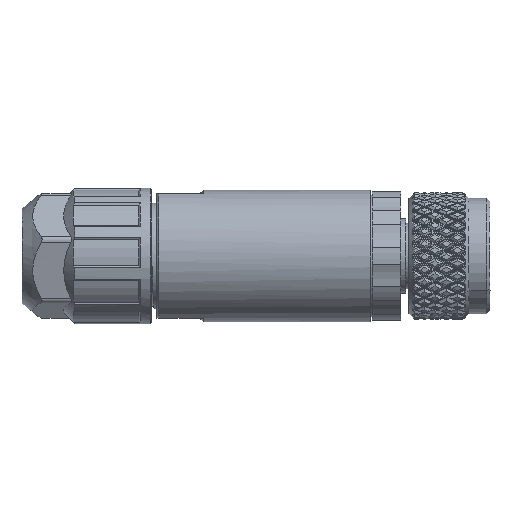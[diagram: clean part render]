
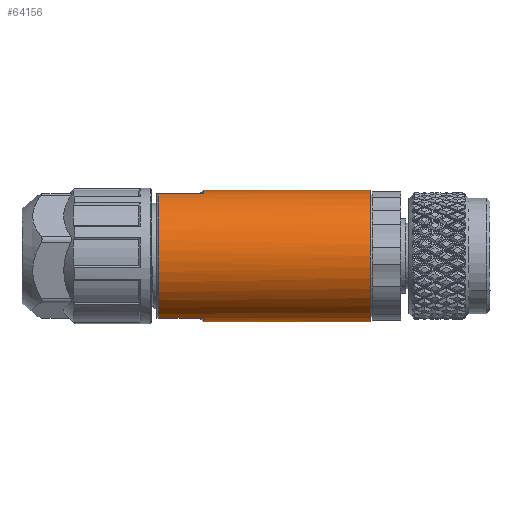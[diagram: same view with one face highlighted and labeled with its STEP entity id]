
A CAD part, left-side view. The second image highlights one B-rep face of the part: STEP entity #64156.
In plain terms, the highlighted cylindrical face has radius 6.25 mm (diameter 12.5 mm), a partial arc.
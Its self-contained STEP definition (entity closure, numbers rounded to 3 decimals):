
#1278 = DIRECTION ( 'NONE',  ( 0., -1., 0. ) ) ;
#1683 = VERTEX_POINT ( 'NONE', #93237 ) ;
#3252 = DIRECTION ( 'NONE',  ( 0., -1., 0. ) ) ;
#4328 = ORIENTED_EDGE ( 'NONE', *, *, #86478, .T. ) ;
#7391 = EDGE_CURVE ( 'NONE', #1683, #92361, #25279, .T. ) ;
#8622 = EDGE_CURVE ( 'NONE', #57035, #32142, #27670, .T. ) ;
#9631 = DIRECTION ( 'NONE',  ( 0., 0., -1. ) ) ;
#10742 = VECTOR ( 'NONE', #17435, 1000. ) ;
#10937 = DIRECTION ( 'NONE',  ( 0., -1., 0. ) ) ;
#14149 = CIRCLE ( 'NONE', #59934, 6.25 ) ;
#14823 = CARTESIAN_POINT ( 'NONE',  ( 0.826, 25.798, 15.703 ) ) ;
#15020 = VERTEX_POINT ( 'NONE', #67753 ) ;
#16961 = ORIENTED_EDGE ( 'NONE', *, *, #96376, .T. ) ;
#17435 = DIRECTION ( 'NONE',  ( 0., -1., 0. ) ) ;
#19508 = VECTOR ( 'NONE', #55042, 1000. ) ;
#24930 = DIRECTION ( 'NONE',  ( 0., -1., 0. ) ) ;
#25279 = CIRCLE ( 'NONE', #73227, 6.25 ) ;
#27670 = LINE ( 'NONE', #55767, #10742 ) ;
#29049 = CARTESIAN_POINT ( 'NONE',  ( 2.889, 9.948, 15.353 ) ) ;
#32142 = VERTEX_POINT ( 'NONE', #96915 ) ;
#33872 = DIRECTION ( 'NONE',  ( 0., 0., -1. ) ) ;
#34582 = CIRCLE ( 'NONE', #56703, 6.25 ) ;
#35156 = FACE_OUTER_BOUND ( 'NONE', #56214, .T. ) ;
#38280 = EDGE_CURVE ( 'NONE', #1683, #64025, #44729, .T. ) ;
#39296 = CARTESIAN_POINT ( 'NONE',  ( 2.889, 30.198, 15.353 ) ) ;
#40004 = LINE ( 'NONE', #79910, #94108 ) ;
#40284 = DIRECTION ( 'NONE',  ( 0., -1., 0. ) ) ;
#40365 = CARTESIAN_POINT ( 'NONE',  ( 2.889, 30.198, 21.603 ) ) ;
#40593 = LINE ( 'NONE', #39296, #70698 ) ;
#41099 = ORIENTED_EDGE ( 'NONE', *, *, #38280, .F. ) ;
#41939 = ORIENTED_EDGE ( 'NONE', *, *, #7391, .T. ) ;
#44729 = LINE ( 'NONE', #70870, #19508 ) ;
#48012 = DIRECTION ( 'NONE',  ( 0., -1., 0. ) ) ;
#49029 = DIRECTION ( 'NONE',  ( 0., 0., -1. ) ) ;
#49274 = CARTESIAN_POINT ( 'NONE',  ( 0.826, 30.019, 15.703 ) ) ;
#52042 = CARTESIAN_POINT ( 'NONE',  ( 2.889, 9.948, 21.603 ) ) ;
#52391 = DIRECTION ( 'NONE',  ( 0., 0., -1. ) ) ;
#53845 = CARTESIAN_POINT ( 'NONE',  ( 0.826, 25.798, 27.503 ) ) ;
#55042 = DIRECTION ( 'NONE',  ( 0., -1., 0. ) ) ;
#55767 = CARTESIAN_POINT ( 'NONE',  ( 2.889, 30.198, 27.853 ) ) ;
#56190 = ORIENTED_EDGE ( 'NONE', *, *, #96426, .T. ) ;
#56214 = EDGE_LOOP ( 'NONE', ( #68484, #74175, #41099, #41939, #88574, #56190, #16961, #4328 ) ) ;
#56703 = AXIS2_PLACEMENT_3D ( 'NONE', #94394, #48012, #33872 ) ;
#57035 = VERTEX_POINT ( 'NONE', #81201 ) ;
#59787 = DIRECTION ( 'NONE',  ( 0., 1., 0. ) ) ;
#59934 = AXIS2_PLACEMENT_3D ( 'NONE', #72550, #40284, #49029 ) ;
#61849 = VERTEX_POINT ( 'NONE', #29049 ) ;
#61986 = AXIS2_PLACEMENT_3D ( 'NONE', #52042, #59787, #52391 ) ;
#64025 = VERTEX_POINT ( 'NONE', #53845 ) ;
#64156 = ADVANCED_FACE ( 'NONE', ( #35156 ), #78491, .T. ) ;
#64818 = EDGE_CURVE ( 'NONE', #92361, #94124, #40004, .T. ) ;
#67753 = CARTESIAN_POINT ( 'NONE',  ( 2.889, 25.798, 15.353 ) ) ;
#68484 = ORIENTED_EDGE ( 'NONE', *, *, #8622, .F. ) ;
#70698 = VECTOR ( 'NONE', #1278, 1000. ) ;
#70870 = CARTESIAN_POINT ( 'NONE',  ( 0.826, 26.198, 27.503 ) ) ;
#72550 = CARTESIAN_POINT ( 'NONE',  ( 2.889, 25.798, 21.603 ) ) ;
#73227 = AXIS2_PLACEMENT_3D ( 'NONE', #79279, #3252, #9631 ) ;
#74175 = ORIENTED_EDGE ( 'NONE', *, *, #96449, .T. ) ;
#77034 = AXIS2_PLACEMENT_3D ( 'NONE', #40365, #24930, #79375 ) ;
#77054 = CIRCLE ( 'NONE', #61986, 6.25 ) ;
#78491 = CYLINDRICAL_SURFACE ( 'NONE', #77034, 6.25 ) ;
#79279 = CARTESIAN_POINT ( 'NONE',  ( 2.889, 30.019, 21.603 ) ) ;
#79375 = DIRECTION ( 'NONE',  ( 0., 0., -1. ) ) ;
#79910 = CARTESIAN_POINT ( 'NONE',  ( 0.826, 26.198, 15.703 ) ) ;
#81201 = CARTESIAN_POINT ( 'NONE',  ( 2.889, 25.798, 27.853 ) ) ;
#86478 = EDGE_CURVE ( 'NONE', #61849, #32142, #77054, .T. ) ;
#88574 = ORIENTED_EDGE ( 'NONE', *, *, #64818, .T. ) ;
#92361 = VERTEX_POINT ( 'NONE', #49274 ) ;
#93237 = CARTESIAN_POINT ( 'NONE',  ( 0.826, 30.019, 27.503 ) ) ;
#94108 = VECTOR ( 'NONE', #10937, 1000. ) ;
#94124 = VERTEX_POINT ( 'NONE', #14823 ) ;
#94394 = CARTESIAN_POINT ( 'NONE',  ( 2.889, 25.798, 21.603 ) ) ;
#96376 = EDGE_CURVE ( 'NONE', #15020, #61849, #40593, .T. ) ;
#96426 = EDGE_CURVE ( 'NONE', #94124, #15020, #34582, .T. ) ;
#96449 = EDGE_CURVE ( 'NONE', #57035, #64025, #14149, .T. ) ;
#96915 = CARTESIAN_POINT ( 'NONE',  ( 2.889, 9.948, 27.853 ) ) ;
